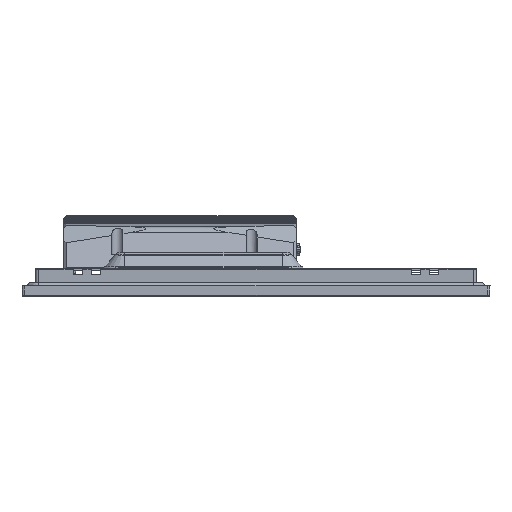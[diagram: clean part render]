
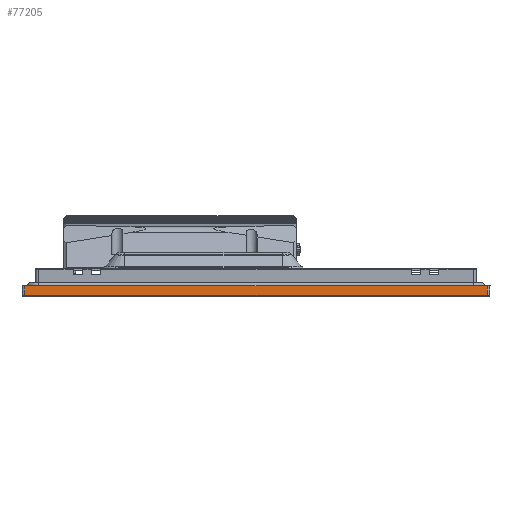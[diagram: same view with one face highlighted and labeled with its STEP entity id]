
A CAD part, left-side view. The second image highlights one B-rep face of the part: STEP entity #77205.
In plain terms, the highlighted planar face has unit normal (-1, 0, 0).
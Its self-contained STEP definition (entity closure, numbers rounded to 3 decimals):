
#10738 = PLANE ( 'NONE',  #49678 ) ;
#10946 = DIRECTION ( 'NONE',  ( 0., 1., 0. ) ) ;
#11058 = VECTOR ( 'NONE', #70898, 1000. ) ;
#14530 = LINE ( 'NONE', #60146, #99275 ) ;
#19924 = CARTESIAN_POINT ( 'NONE',  ( -275., 169., 7.5 ) ) ;
#23900 = LINE ( 'NONE', #63634, #11058 ) ;
#24587 = VERTEX_POINT ( 'NONE', #19924 ) ;
#31757 = VECTOR ( 'NONE', #81897, 1000. ) ;
#31883 = EDGE_CURVE ( 'NONE', #88080, #24587, #23900, .T. ) ;
#34790 = CARTESIAN_POINT ( 'NONE',  ( -275., -169., 7.5 ) ) ;
#37368 = EDGE_CURVE ( 'NONE', #48603, #88080, #70311, .T. ) ;
#45880 = DIRECTION ( 'NONE',  ( 0., 0., 1. ) ) ;
#46229 = DIRECTION ( 'NONE',  ( -1., 0., 0. ) ) ;
#48603 = VERTEX_POINT ( 'NONE', #94900 ) ;
#49678 = AXIS2_PLACEMENT_3D ( 'NONE', #54147, #46229, #45880 ) ;
#50990 = EDGE_CURVE ( 'NONE', #72249, #24587, #14530, .T. ) ;
#54147 = CARTESIAN_POINT ( 'NONE',  ( -275., -171., 0. ) ) ;
#54411 = VECTOR ( 'NONE', #78728, 1000. ) ;
#60146 = CARTESIAN_POINT ( 'NONE',  ( -275., -171., 7.5 ) ) ;
#63548 = EDGE_LOOP ( 'NONE', ( #83573, #102743, #81797, #81909 ) ) ;
#63634 = CARTESIAN_POINT ( 'NONE',  ( -275., 169., -26.072 ) ) ;
#68531 = LINE ( 'NONE', #104187, #54411 ) ;
#70311 = LINE ( 'NONE', #90794, #31757 ) ;
#70898 = DIRECTION ( 'NONE',  ( 0., 0., 1. ) ) ;
#72249 = VERTEX_POINT ( 'NONE', #34790 ) ;
#77205 = ADVANCED_FACE ( 'NONE', ( #94609 ), #10738, .T. ) ;
#78728 = DIRECTION ( 'NONE',  ( 0., 0., 1. ) ) ;
#81797 = ORIENTED_EDGE ( 'NONE', *, *, #31883, .F. ) ;
#81897 = DIRECTION ( 'NONE',  ( 0., 1., 0. ) ) ;
#81909 = ORIENTED_EDGE ( 'NONE', *, *, #37368, .F. ) ;
#83573 = ORIENTED_EDGE ( 'NONE', *, *, #90189, .T. ) ;
#88080 = VERTEX_POINT ( 'NONE', #92329 ) ;
#90189 = EDGE_CURVE ( 'NONE', #48603, #72249, #68531, .T. ) ;
#90794 = CARTESIAN_POINT ( 'NONE',  ( -275., 0., 0.5 ) ) ;
#92329 = CARTESIAN_POINT ( 'NONE',  ( -275., 169., 0.5 ) ) ;
#94609 = FACE_OUTER_BOUND ( 'NONE', #63548, .T. ) ;
#94900 = CARTESIAN_POINT ( 'NONE',  ( -275., -169., 0.5 ) ) ;
#99275 = VECTOR ( 'NONE', #10946, 1000. ) ;
#102743 = ORIENTED_EDGE ( 'NONE', *, *, #50990, .T. ) ;
#104187 = CARTESIAN_POINT ( 'NONE',  ( -275., -169., 0. ) ) ;
